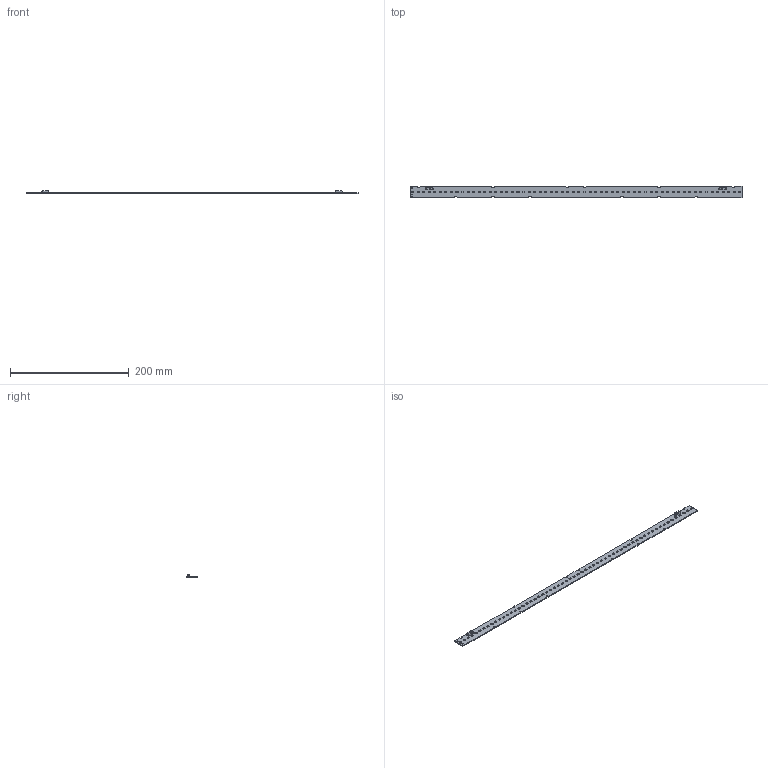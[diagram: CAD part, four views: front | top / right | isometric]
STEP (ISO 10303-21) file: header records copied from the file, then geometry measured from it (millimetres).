
FILE_DESCRIPTION (( 'STEP AP203' ), '1' );
FILE_NAME ('led_module LS20-560.STEP', '2018-07-04T09:52:13', ( '' ), ( '' ), 'SwSTEP 2.0', 'SolidWorks 2014', '' );
FILE_SCHEMA (( 'CONFIG_CONTROL_DESIGN' ));
Length unit declared in the file: millimetre
Products named in the file (4): LM28xB Series_zippi_pieni; 7800175; LS20-560; led_module LS20-560
Assembly tree (63 placements, depth 2):
  led_module LS20-560
    LS20-560
    7800175  x2
    LM28xB Series_zippi_pieni  x60
Bounding box: 559.8 x 20 x 5.95 mm (x, y, z)
Volume: 18355.6 mm3; surface area: 26329.8 mm2
Topology: 63 solids, 63 shells, 3562 faces, 10460 edges, 7092 vertices
Faces by surface type: plane 2410, cylinder 1150, bspline 2
Entity records: 9594 total; most frequent: CARTESIAN_POINT 1738, ORIENTED_EDGE 1244, DIRECTION 1174, EDGE_CURVE 622, VECTOR 454, LINE 454, VERTEX_POINT 416, AXIS2_PLACEMENT_3D 360
